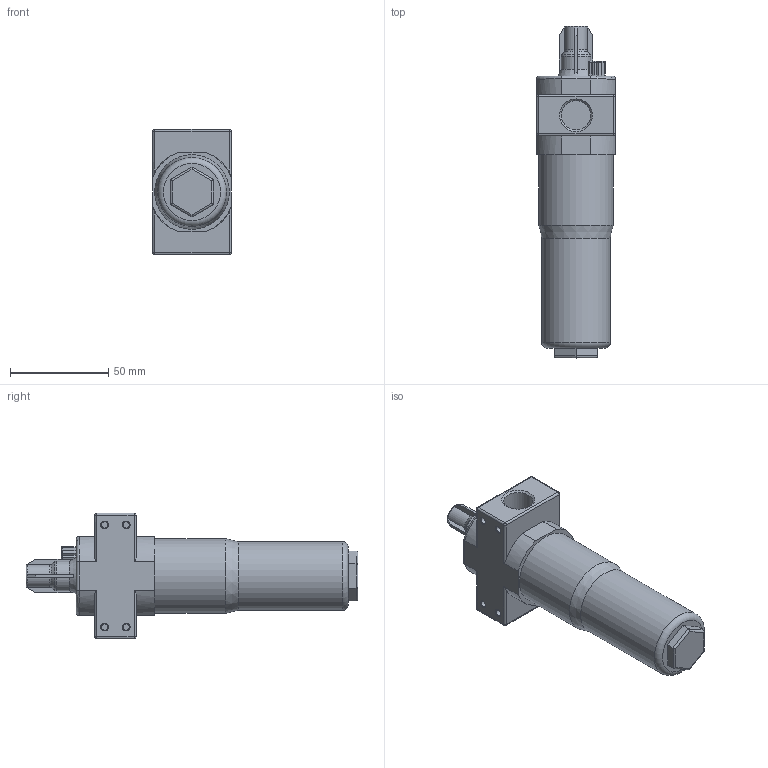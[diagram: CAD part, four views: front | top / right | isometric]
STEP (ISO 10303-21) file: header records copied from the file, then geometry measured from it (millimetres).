
FILE_DESCRIPTION(/* description */ ('STEP AP214'),/* implementation_level */ '2;1');
FILE_NAME(/* name */ '90-OC-37.stp',/* time_stamp */ '2026-01-20T15:15:26+01:00',/* author */ ('Tschernatsch'),/* organization */ ('CADENAS'),/* preprocessor_version */ 'ST-DEVELOPER v20',/* originating_system */ 'Autodesk Inventor 2024',/* authorisation */ ' ');
FILE_SCHEMA (('AUTOMOTIVE_DESIGN { 1 0 10303 214 3 1 1 }'));
Length unit declared in the file: millimetre
Products named in the file (1): LOE-G3/8-MINI_____
Bounding box: 40 x 169 x 64 mm (x, y, z)
Volume: 182829.8 mm3; surface area: 25974.4 mm2
Topology: 1 solids, 1 shells, 182 faces, 444 edges, 266 vertices
Faces by surface type: cylinder 74, plane 66, torus 22, cone 12, sphere 8
Full cylindrical faces by diameter (mm): 3.242 x4, 14.95 x2, 35 x1, 38 x1
Entity records: 5630 total; most frequent: CARTESIAN_POINT 1379, DIRECTION 892, ORIENTED_EDGE 872, EDGE_CURVE 436, AXIS2_PLACEMENT_3D 334, VERTEX_POINT 266, LINE 224, VECTOR 224
